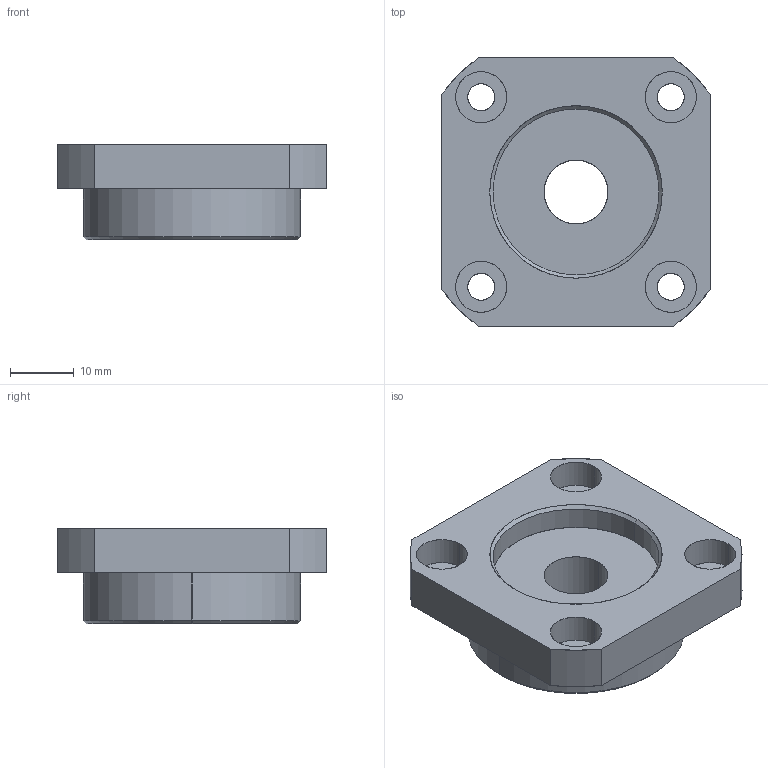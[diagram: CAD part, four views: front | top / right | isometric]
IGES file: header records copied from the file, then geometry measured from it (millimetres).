
Start section: SolidWorks IGES file using analytic representation for surfaces
Global section: file name: E:\同创达图纸\产品示意图\3D选型图\支撑座\FF系列\FF12.IGS; native system: SolidWorks 2012; preprocessor: SolidWorks 2012; author: gao; date: 130702.203632; units: millimetre
Bounding box: 42 x 42 x 15 mm (x, y, z)
Surface area: 6407.1 mm2 (no closed solid volume)
Topology: 0 solids, 0 shells, 47 faces, 1008 edges, 1008 vertices
Faces by surface type: revolution 34, bspline 13
